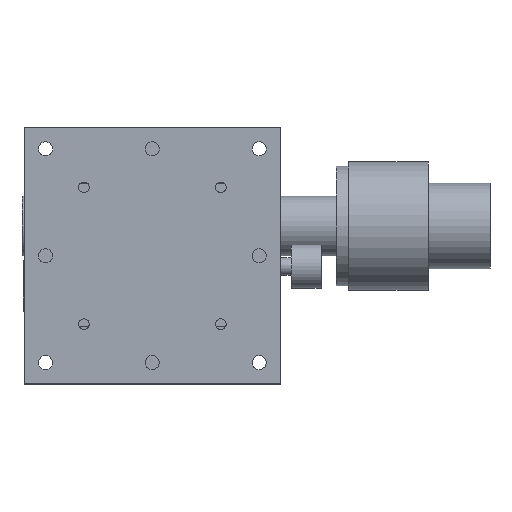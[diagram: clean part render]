
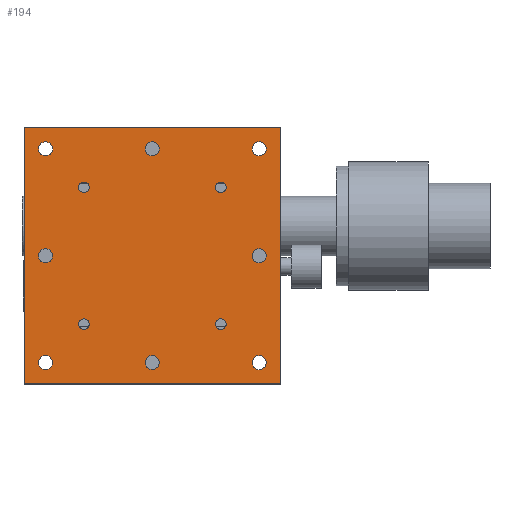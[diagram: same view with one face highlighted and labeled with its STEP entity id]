
A CAD part, top view. The second image highlights one B-rep face of the part: STEP entity #194.
In plain terms, the highlighted planar face has unit normal (0, 0, 1).
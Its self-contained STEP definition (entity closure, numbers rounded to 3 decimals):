
#194 = ADVANCED_FACE( '', ( #492, #493, #494, #495, #496, #497, #498, #499, #500, #501, #502, #503, #504 ), #505, .T. );
#492 = FACE_OUTER_BOUND( '', #985, .T. );
#493 = FACE_BOUND( '', #986, .T. );
#494 = FACE_BOUND( '', #987, .T. );
#495 = FACE_BOUND( '', #988, .T. );
#496 = FACE_BOUND( '', #989, .T. );
#497 = FACE_BOUND( '', #990, .T. );
#498 = FACE_BOUND( '', #991, .T. );
#499 = FACE_BOUND( '', #992, .T. );
#500 = FACE_BOUND( '', #993, .T. );
#501 = FACE_BOUND( '', #994, .T. );
#502 = FACE_BOUND( '', #995, .T. );
#503 = FACE_BOUND( '', #996, .T. );
#504 = FACE_BOUND( '', #997, .T. );
#505 = PLANE( '', #998 );
#985 = EDGE_LOOP( '', ( #1525, #1526, #1527, #1528 ) );
#986 = EDGE_LOOP( '', ( #1529 ) );
#987 = EDGE_LOOP( '', ( #1530 ) );
#988 = EDGE_LOOP( '', ( #1531 ) );
#989 = EDGE_LOOP( '', ( #1532 ) );
#990 = EDGE_LOOP( '', ( #1533 ) );
#991 = EDGE_LOOP( '', ( #1534 ) );
#992 = EDGE_LOOP( '', ( #1535 ) );
#993 = EDGE_LOOP( '', ( #1536 ) );
#994 = EDGE_LOOP( '', ( #1537 ) );
#995 = EDGE_LOOP( '', ( #1538 ) );
#996 = EDGE_LOOP( '', ( #1539 ) );
#997 = EDGE_LOOP( '', ( #1540 ) );
#998 = AXIS2_PLACEMENT_3D( '', #1541, #1542, #1543 );
#1525 = ORIENTED_EDGE( '', *, *, #2458, .F. );
#1526 = ORIENTED_EDGE( '', *, *, #2459, .F. );
#1527 = ORIENTED_EDGE( '', *, *, #2460, .F. );
#1528 = ORIENTED_EDGE( '', *, *, #2461, .F. );
#1529 = ORIENTED_EDGE( '', *, *, #2462, .T. );
#1530 = ORIENTED_EDGE( '', *, *, #2463, .T. );
#1531 = ORIENTED_EDGE( '', *, *, #2464, .T. );
#1532 = ORIENTED_EDGE( '', *, *, #2465, .T. );
#1533 = ORIENTED_EDGE( '', *, *, #2466, .T. );
#1534 = ORIENTED_EDGE( '', *, *, #2414, .T. );
#1535 = ORIENTED_EDGE( '', *, *, #2467, .T. );
#1536 = ORIENTED_EDGE( '', *, *, #2420, .T. );
#1537 = ORIENTED_EDGE( '', *, *, #2468, .T. );
#1538 = ORIENTED_EDGE( '', *, *, #2438, .T. );
#1539 = ORIENTED_EDGE( '', *, *, #2441, .T. );
#1540 = ORIENTED_EDGE( '', *, *, #2417, .T. );
#1541 = CARTESIAN_POINT( '', ( 30., -30., 72. ) );
#1542 = DIRECTION( '', ( 0., 0., 1. ) );
#1543 = DIRECTION( '', ( -1., 0., 0. ) );
#2414 = EDGE_CURVE( '', #2816, #2816, #2817, .T. );
#2417 = EDGE_CURVE( '', #2821, #2821, #2822, .T. );
#2420 = EDGE_CURVE( '', #2826, #2826, #2827, .T. );
#2438 = EDGE_CURVE( '', #2858, #2858, #2859, .T. );
#2441 = EDGE_CURVE( '', #2863, #2863, #2864, .T. );
#2458 = EDGE_CURVE( '', #2891, #2892, #2893, .T. );
#2459 = EDGE_CURVE( '', #2894, #2891, #2895, .T. );
#2460 = EDGE_CURVE( '', #2896, #2894, #2897, .T. );
#2461 = EDGE_CURVE( '', #2892, #2896, #2898, .T. );
#2462 = EDGE_CURVE( '', #2899, #2899, #2900, .T. );
#2463 = EDGE_CURVE( '', #2901, #2901, #2902, .T. );
#2464 = EDGE_CURVE( '', #2903, #2903, #2904, .T. );
#2465 = EDGE_CURVE( '', #2905, #2905, #2906, .T. );
#2466 = EDGE_CURVE( '', #2907, #2907, #2908, .T. );
#2467 = EDGE_CURVE( '', #2909, #2909, #2910, .T. );
#2468 = EDGE_CURVE( '', #2911, #2911, #2912, .T. );
#2816 = VERTEX_POINT( '', #3407 );
#2817 = CIRCLE( '', #3408, 1.65 );
#2821 = VERTEX_POINT( '', #3412 );
#2822 = CIRCLE( '', #3413, 1.65 );
#2826 = VERTEX_POINT( '', #3417 );
#2827 = CIRCLE( '', #3418, 1.65 );
#2858 = VERTEX_POINT( '', #3455 );
#2859 = CIRCLE( '', #3456, 1.65 );
#2863 = VERTEX_POINT( '', #3460 );
#2864 = CIRCLE( '', #3461, 1.65 );
#2891 = VERTEX_POINT( '', #3495 );
#2892 = VERTEX_POINT( '', #3496 );
#2893 = LINE( '', #3497, #3498 );
#2894 = VERTEX_POINT( '', #3499 );
#2895 = LINE( '', #3500, #3501 );
#2896 = VERTEX_POINT( '', #3502 );
#2897 = LINE( '', #3503, #3504 );
#2898 = LINE( '', #3505, #3506 );
#2899 = VERTEX_POINT( '', #3507 );
#2900 = CIRCLE( '', #3508, 1.25 );
#2901 = VERTEX_POINT( '', #3509 );
#2902 = CIRCLE( '', #3510, 1.25 );
#2903 = VERTEX_POINT( '', #3511 );
#2904 = CIRCLE( '', #3512, 1.25 );
#2905 = VERTEX_POINT( '', #3513 );
#2906 = CIRCLE( '', #3514, 1.25 );
#2907 = VERTEX_POINT( '', #3515 );
#2908 = CIRCLE( '', #3516, 1.65 );
#2909 = VERTEX_POINT( '', #3517 );
#2910 = CIRCLE( '', #3518, 1.65 );
#2911 = VERTEX_POINT( '', #3519 );
#2912 = CIRCLE( '', #3520, 1.65 );
#3407 = CARTESIAN_POINT( '', ( 5., -31.65, 72. ) );
#3408 = AXIS2_PLACEMENT_3D( '', #4126, #4127, #4128 );
#3412 = CARTESIAN_POINT( '', ( 30., -56.65, 72. ) );
#3413 = AXIS2_PLACEMENT_3D( '', #4132, #4133, #4134 );
#3417 = CARTESIAN_POINT( '', ( 30., -6.65, 72. ) );
#3418 = AXIS2_PLACEMENT_3D( '', #4138, #4139, #4140 );
#3455 = CARTESIAN_POINT( '', ( 55., -31.65, 72. ) );
#3456 = AXIS2_PLACEMENT_3D( '', #4171, #4172, #4173 );
#3460 = CARTESIAN_POINT( '', ( 55., -56.65, 72. ) );
#3461 = AXIS2_PLACEMENT_3D( '', #4177, #4178, #4179 );
#3495 = CARTESIAN_POINT( '', ( 0., 0., 72. ) );
#3496 = CARTESIAN_POINT( '', ( 60., 0., 72. ) );
#3497 = CARTESIAN_POINT( '', ( 30., 0., 72. ) );
#3498 = VECTOR( '', #4199, 1000. );
#3499 = CARTESIAN_POINT( '', ( 0., -60., 72. ) );
#3500 = CARTESIAN_POINT( '', ( 0., -59., 72. ) );
#3501 = VECTOR( '', #4200, 1000. );
#3502 = CARTESIAN_POINT( '', ( 60., -60., 72. ) );
#3503 = CARTESIAN_POINT( '', ( 30., -60., 72. ) );
#3504 = VECTOR( '', #4201, 1000. );
#3505 = CARTESIAN_POINT( '', ( 60., -1., 72. ) );
#3506 = VECTOR( '', #4202, 1000. );
#3507 = CARTESIAN_POINT( '', ( 14., -47.25, 72. ) );
#3508 = AXIS2_PLACEMENT_3D( '', #4203, #4204, #4205 );
#3509 = CARTESIAN_POINT( '', ( 46., -47.25, 72. ) );
#3510 = AXIS2_PLACEMENT_3D( '', #4206, #4207, #4208 );
#3511 = CARTESIAN_POINT( '', ( 46., -15.25, 72. ) );
#3512 = AXIS2_PLACEMENT_3D( '', #4209, #4210, #4211 );
#3513 = CARTESIAN_POINT( '', ( 14., -15.25, 72. ) );
#3514 = AXIS2_PLACEMENT_3D( '', #4212, #4213, #4214 );
#3515 = CARTESIAN_POINT( '', ( 5., -56.65, 72. ) );
#3516 = AXIS2_PLACEMENT_3D( '', #4215, #4216, #4217 );
#3517 = CARTESIAN_POINT( '', ( 5., -6.65, 72. ) );
#3518 = AXIS2_PLACEMENT_3D( '', #4218, #4219, #4220 );
#3519 = CARTESIAN_POINT( '', ( 55., -6.65, 72. ) );
#3520 = AXIS2_PLACEMENT_3D( '', #4221, #4222, #4223 );
#4126 = CARTESIAN_POINT( '', ( 5., -30., 72. ) );
#4127 = DIRECTION( '', ( 0., 0., -1. ) );
#4128 = DIRECTION( '', ( 0., -1., 0. ) );
#4132 = CARTESIAN_POINT( '', ( 30., -55., 72. ) );
#4133 = DIRECTION( '', ( 0., 0., -1. ) );
#4134 = DIRECTION( '', ( 0., -1., 0. ) );
#4138 = CARTESIAN_POINT( '', ( 30., -5., 72. ) );
#4139 = DIRECTION( '', ( 0., 0., -1. ) );
#4140 = DIRECTION( '', ( 0., -1., 0. ) );
#4171 = CARTESIAN_POINT( '', ( 55., -30., 72. ) );
#4172 = DIRECTION( '', ( 0., 0., -1. ) );
#4173 = DIRECTION( '', ( 0., -1., 0. ) );
#4177 = CARTESIAN_POINT( '', ( 55., -55., 72. ) );
#4178 = DIRECTION( '', ( 0., 0., -1. ) );
#4179 = DIRECTION( '', ( 0., -1., 0. ) );
#4199 = DIRECTION( '', ( 1., 0., 0. ) );
#4200 = DIRECTION( '', ( 0., 1., 0. ) );
#4201 = DIRECTION( '', ( -1., 0., 0. ) );
#4202 = DIRECTION( '', ( 0., -1., 0. ) );
#4203 = CARTESIAN_POINT( '', ( 14., -46., 72. ) );
#4204 = DIRECTION( '', ( 0., 0., -1. ) );
#4205 = DIRECTION( '', ( 0., -1., 0. ) );
#4206 = CARTESIAN_POINT( '', ( 46., -46., 72. ) );
#4207 = DIRECTION( '', ( 0., 0., -1. ) );
#4208 = DIRECTION( '', ( 0., -1., 0. ) );
#4209 = CARTESIAN_POINT( '', ( 46., -14., 72. ) );
#4210 = DIRECTION( '', ( 0., 0., -1. ) );
#4211 = DIRECTION( '', ( 0., -1., 0. ) );
#4212 = CARTESIAN_POINT( '', ( 14., -14., 72. ) );
#4213 = DIRECTION( '', ( 0., 0., -1. ) );
#4214 = DIRECTION( '', ( 0., -1., 0. ) );
#4215 = CARTESIAN_POINT( '', ( 5., -55., 72. ) );
#4216 = DIRECTION( '', ( 0., 0., -1. ) );
#4217 = DIRECTION( '', ( 0., -1., 0. ) );
#4218 = CARTESIAN_POINT( '', ( 5., -5., 72. ) );
#4219 = DIRECTION( '', ( 0., 0., -1. ) );
#4220 = DIRECTION( '', ( 0., -1., 0. ) );
#4221 = CARTESIAN_POINT( '', ( 55., -5., 72. ) );
#4222 = DIRECTION( '', ( 0., 0., -1. ) );
#4223 = DIRECTION( '', ( 0., -1., 0. ) );
